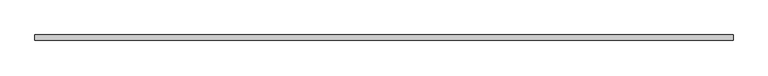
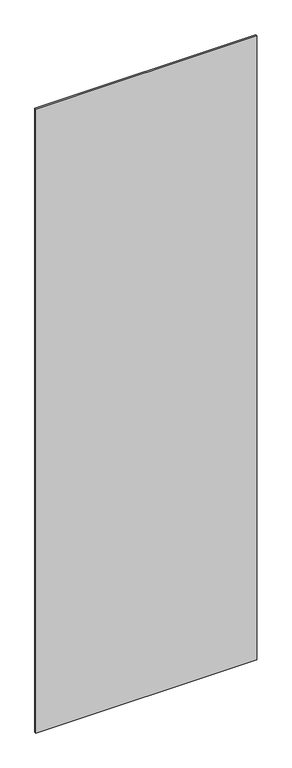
"""IFC4 building model written with IfcOpenShell, lengths in millimetres: plate geometry, システム パネル : 標準."""

from ifc_helpers import new_model, si_unit, origin, origin_with_axes, place, context, project, spatial, polyline, outline, extrude, source, transform, mapped, element, save


def plate_c5656bf9(model_context):
    return source(origin(), model_context, "Body", "SweptSolid", [
        extrude(outline(polyline([(646.442886, -5.0), (-646.442886, -5.0), (-646.442886, 5.0), (646.442886, 5.0), (646.442886, -5.0)])), origin_with_axes(), (0.0, 0.0, 1.0), 3860.0),
    ])


if __name__ == "__main__":
    model = new_model("IFC4")
    model_context = context("Model", 3, world=origin())
    ifc_project = project(units=[si_unit("LENGTHUNIT", "METRE", prefix="MILLI")], contexts=[model_context])
    site = spatial("IfcSite", under=ifc_project)
    building = spatial("IfcBuilding", under=site)
    placement = place(None, origin())
    plate_shape = plate_c5656bf9(model_context)
    element("IfcPlate", 1, ObjectType="システム パネル : 標準", at=placement, inside=building, context=model_context, shape_type="MappedRepresentation", body=[
        mapped(plate_shape, transform((0.0, 0.0, 0.0), x_axis=(1.0, 0.0, 0.0), y_axis=(0.0, 1.0, 0.0), z_axis=(0.0, 0.0, 1.0))),
    ])
    save(model, "model.ifc")
